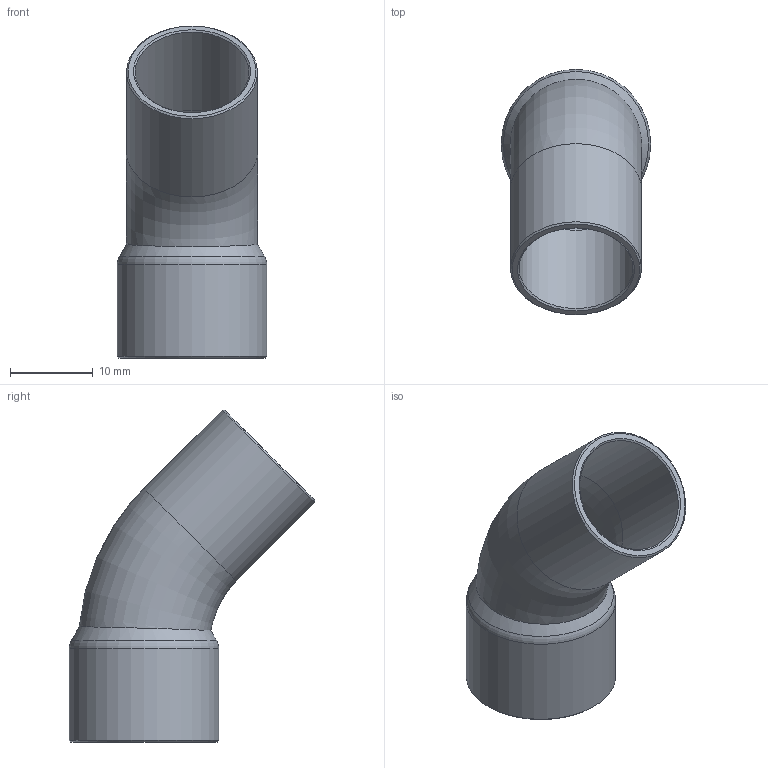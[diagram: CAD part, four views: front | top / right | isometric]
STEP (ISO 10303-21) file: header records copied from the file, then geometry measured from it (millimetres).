
FILE_DESCRIPTION((''),'2;1');
FILE_NAME('G:\SANHA-Ternat\Technik\Management\Bouwmaten + markeringen\z-maattekeningen 3D\29000s\2904058_3d.stp','2017-07-26T14:02:31',('vdvijverd'),(''),'Autodesk Inventor 2009','Autodesk Inventor 2009','');
FILE_SCHEMA(('AUTOMOTIVE_DESIGN { 1 0 10303 214 1 1 1 1 }'));
Length unit declared in the file: millimetre
Products named in the file (1): 2904058_3d
Bounding box: 18.09 x 29.73 x 40.19 mm (x, y, z)
Volume: 2068.6 mm3; surface area: 4029.2 mm2
Topology: 1 solids, 1 shells, 16 faces, 33 edges, 19 vertices
Faces by surface type: cone 6, cylinder 4, torus 3, plane 2, bspline 1
Full cylindrical faces by diameter (mm): 13.77 x1, 15.87 x1, 15.995 x1, 18.095 x1
Entity records: 460 total; most frequent: CARTESIAN_POINT 165, DIRECTION 60, ORIENTED_EDGE 32, EDGE_LOOP 32, AXIS2_PLACEMENT_3D 30, VERTEX_POINT 16, EDGE_CURVE 16, FACE_OUTER_BOUND 16
